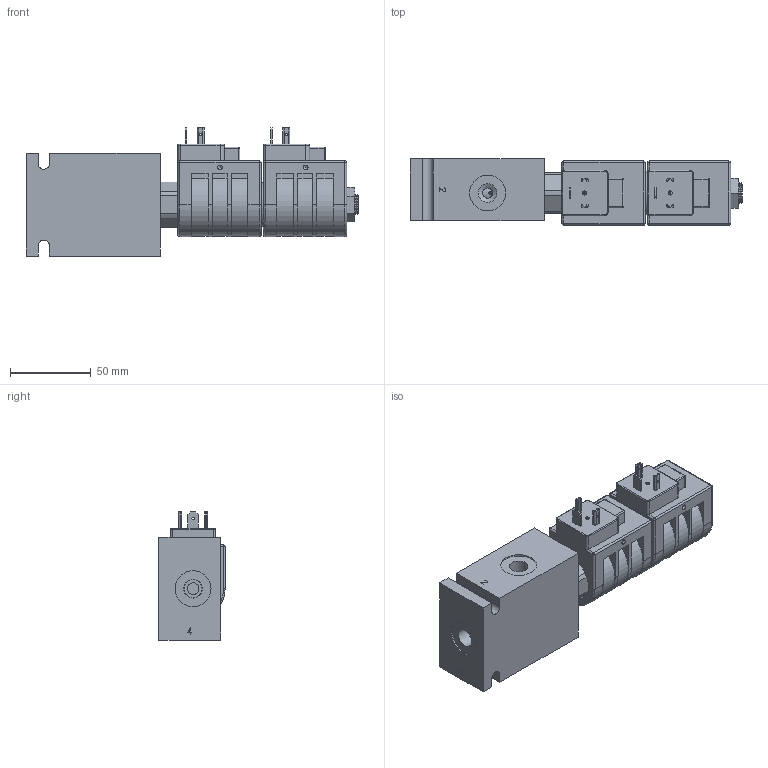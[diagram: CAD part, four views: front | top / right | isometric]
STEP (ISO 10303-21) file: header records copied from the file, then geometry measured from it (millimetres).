
FILE_DESCRIPTION( ( 'Unknown' ), '1' );
FILE_NAME( 'G:/Graphic Design/Graphic Design 2/Data Sheets/SOLENOID OPERATED VALVES/4_STEP/4W3P Tandem Centre/D-DGS4N0MA4.stp', 'Unknown', ( 'Unknown' ), ( 'Unknown' ), 'PSStep 16.0.42', 'Unknown', ' ' );
FILE_SCHEMA( ( 'AUTOMOTIVE_DESIGN { 1 0 10303 214 1 1 1 1 }' ) );
Length unit declared in the file: millimetre
Products named in the file (20): D-LHC12; LHC-Body; LHC-Disc; PT-EL-HC-TerminalConnectors; dgs4m00; DGS4M001; DGS4M002; DGS4M003; DGS4M004; DGS4M005; DGS4M006; DGS4M007; DGS4M008; DGS4M009; DGS4M0010; DGS4M0011; DGS4M0012; Assem1; Delta_1_2_nut1 - Copy; B-DDGA4
Assembly tree (21 placements, depth 3):
  Assem1
    Delta_1_2_nut1 - Copy
    B-DDGA4
    dgs4m00
      DGS4M001
      DGS4M002
      DGS4M003
      DGS4M004
      DGS4M005
      DGS4M006
      DGS4M007
      DGS4M008
      DGS4M009
      DGS4M0010
      DGS4M0011
      DGS4M0012
    D-LHC12  x2
      LHC-Body
      LHC-Disc
      PT-EL-HC-TerminalConnectors
Bounding box: 205.12 x 40.9 x 79.15 mm (x, y, z)
Surface area: 87214.9 mm2 (no closed solid volume)
Topology: 0 solids, 1214 shells, 1214 faces, 5767 edges, 5557 vertices
Faces by surface type: plane 655, extrusion 236, cylinder 210, cone 82, torus 19, sphere 12
Full cylindrical faces by diameter (mm): 0.2 x4, 1 x2, 1.5 x6, 1.6 x24, 2.5 x2, 2.794 x16, 3 x4, 6.3 x2, 7.137 x1, 11 x1, 11.11 x1, 11.176 x1, 11.5 x7, 11.913 x1, 12.827 x1, 12.992 x1, 13.043 x2, 14 x1, 14.287 x1, 14.592 x1, 14.643 x2, 15.723 x2, 15.735 x2, 15.85 x1, 15.875 x3, 15.9 x1, 16.1 x6, 16.167 x1, 16.218 x2, 16.256 x1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
Entity records: 45652 total; most frequent: CARTESIAN_POINT 13892, DIRECTION 4584, VERTEX_POINT 3364, ORIENTED_EDGE 3358, EDGE_CURVE 3358, VECTOR 1804, LINE 1686, AXIS2_PLACEMENT_3D 1390
